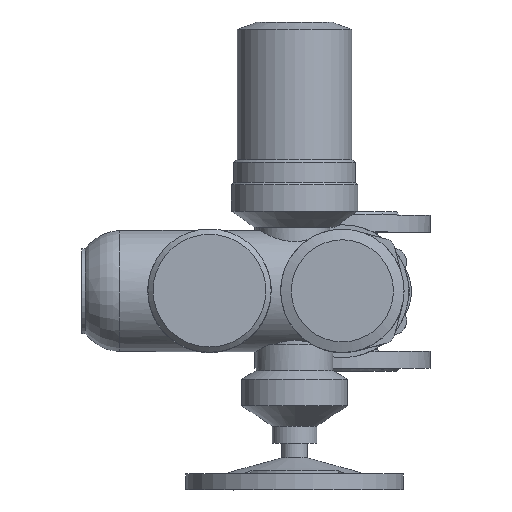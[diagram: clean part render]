
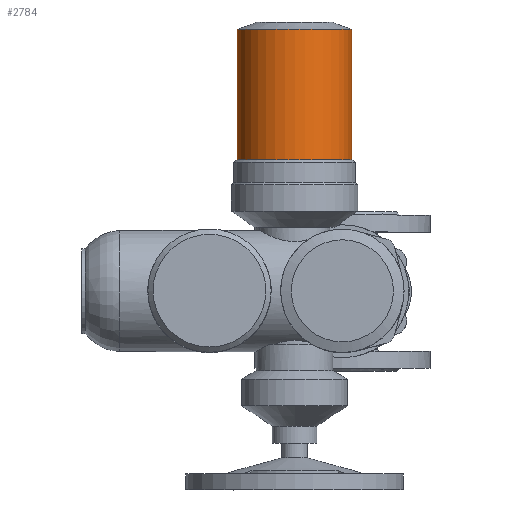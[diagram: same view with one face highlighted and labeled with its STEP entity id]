
A CAD part, top view. The second image highlights one B-rep face of the part: STEP entity #2784.
In plain terms, the highlighted cylindrical face has radius 54 mm (diameter 108 mm), a full revolution.
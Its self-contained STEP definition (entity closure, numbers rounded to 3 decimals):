
#2784=ADVANCED_FACE('',(#5371,#5373),#5375,.T.);
#5371=FACE_OUTER_BOUND('',#5372,.T.);
#5372=EDGE_LOOP('',(#7116));
#5373=FACE_OUTER_BOUND('',#5374,.T.);
#5374=EDGE_LOOP('',(#7117));
#5375=CYLINDRICAL_SURFACE('',#5376,54.);
#5376=AXIS2_PLACEMENT_3D('',#5377,#5378,#5379);
#5377=CARTESIAN_POINT('',(-45.,246.085,338.5));
#5378=DIRECTION('',(0.,-1.,0.));
#5379=DIRECTION('',(0.,0.,1.));
#7116=ORIENTED_EDGE('',*,*,#8075,.T.);
#7117=ORIENTED_EDGE('',*,*,#8011,.F.);
#8011=EDGE_CURVE('',#9366,#9366,#9367,.T.);
#8075=EDGE_CURVE('',#9474,#9474,#9475,.T.);
#9366=VERTEX_POINT('',#14377);
#9367=CIRCLE('',#14378,54.);
#9474=VERTEX_POINT('',#15199);
#9475=CIRCLE('',#15200,54.);
#14377=CARTESIAN_POINT('',(-45.,123.505,392.5));
#14378=AXIS2_PLACEMENT_3D('',#14379,#14380,#14381);
#14379=CARTESIAN_POINT('',(-45.,123.505,338.5));
#14380=DIRECTION('',(0.,-1.,0.));
#14381=DIRECTION('',(0.,0.,1.));
#15199=CARTESIAN_POINT('',(-45.,246.085,392.5));
#15200=AXIS2_PLACEMENT_3D('',#15201,#15202,#15203);
#15201=CARTESIAN_POINT('',(-45.,246.085,338.5));
#15202=DIRECTION('',(0.,-1.,0.));
#15203=DIRECTION('',(0.,0.,1.));
